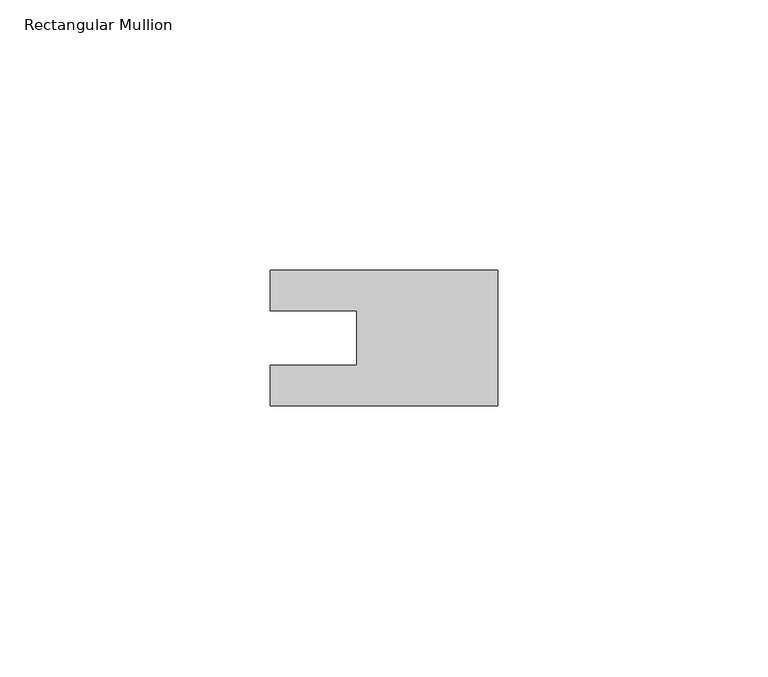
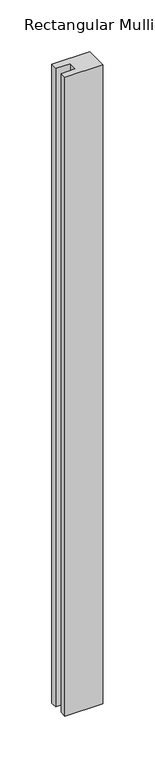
"""IFC4 building model written with IfcOpenShell, lengths in millimetres: member geometry, Rectangular Mullion : 22_IM_CF_DET2_onder_40mm."""

from ifc_helpers import new_model, si_unit, frame, origin, place, context, project, spatial, polyline, outline, extrude, source, transform, mapped, element, save


def rectangular_mullion_9d4a5aa8(model_context):
    return source(origin(), model_context, "Body", "SweptSolid", [
        extrude(outline(polyline([(0.0, 12.5), (0.0, -12.5), (-42.0, -12.5), (-42.0, -5.0), (-26.0, -5.0), (-26.0, 5.0), (-42.0, 5.0), (-42.0, 12.5), (0.0, 12.5)])), frame((0.0, 0.0, -750.0000003), z_axis=(0.0, 0.0, 1.0), x_axis=(1.0, 0.0, 0.0)), (0.0, 0.0, 1.0), 750.0000003),
    ])


if __name__ == "__main__":
    model = new_model("IFC4")
    model_context = context("Model", 3, world=origin())
    ifc_project = project(units=[si_unit("LENGTHUNIT", "METRE", prefix="MILLI")], contexts=[model_context])
    site = spatial("IfcSite", under=ifc_project)
    building = spatial("IfcBuilding", under=site)
    placement = place(None, origin())
    rectangular_mullion_shape = rectangular_mullion_9d4a5aa8(model_context)
    element("IfcMember", 1, ObjectType="Rectangular Mullion : 22_IM_CF_DET2_onder_40mm", at=placement, inside=building, context=model_context, shape_type="MappedRepresentation", body=[
        mapped(rectangular_mullion_shape, transform((0.0, 0.0, 0.0), x_axis=(1.0, 0.0, 0.0), y_axis=(0.0, 1.0, 0.0), z_axis=(0.0, 0.0, 1.0))),
    ])
    save(model, "model.ifc")
